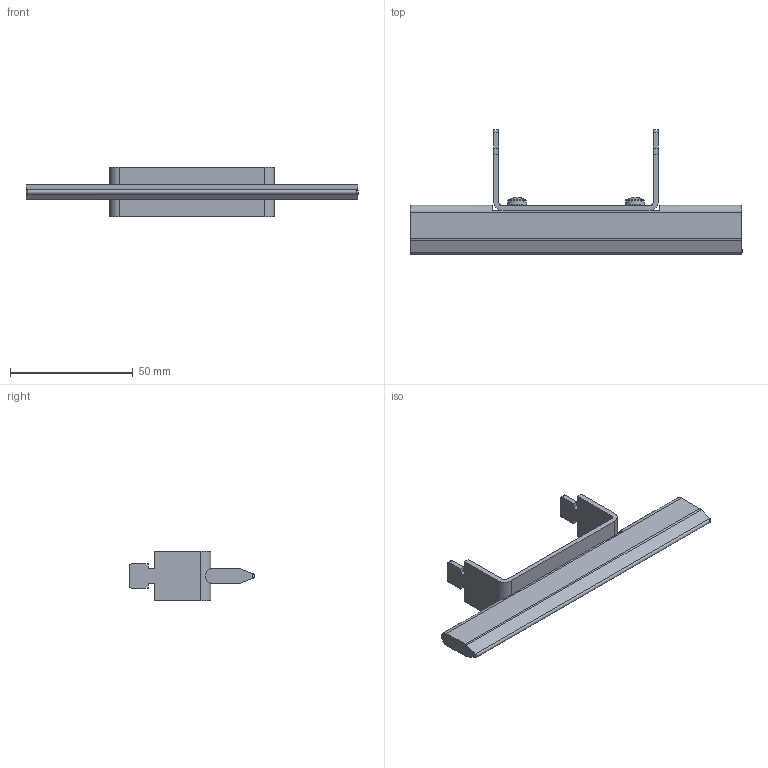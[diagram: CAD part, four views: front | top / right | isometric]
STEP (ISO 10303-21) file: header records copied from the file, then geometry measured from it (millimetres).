
FILE_DESCRIPTION (( 'STEP AP214' ), '1' );
FILE_NAME ('ZP1.step', '2011-08-23T10:40:17', ( 'Radek Veselý' ), ( 'Siemens and Partners' ), 'SwSTEP 2.0', 'SolidWorks 2006303', '' );
FILE_SCHEMA (( 'AUTOMOTIVE_DESIGN' ));
Length unit declared in the file: millimetre
Products named in the file (1): ZP1
Bounding box: 135 x 50.7 x 20 mm (x, y, z)
Volume: 17917.6 mm3; surface area: 12151.4 mm2
Topology: 4 solids, 4 shells, 143 faces, 376 edges, 238 vertices
Faces by surface type: plane 81, cylinder 36, cone 12, torus 8, sphere 4, bspline 2
Entity records: 6484 total; most frequent: CARTESIAN_POINT 1357, ORIENTED_EDGE 736, DIRECTION 732, EDGE_CURVE 368, AXIS2_PLACEMENT_3D 258, VERTEX_POINT 238, VECTOR 216, LINE 216
